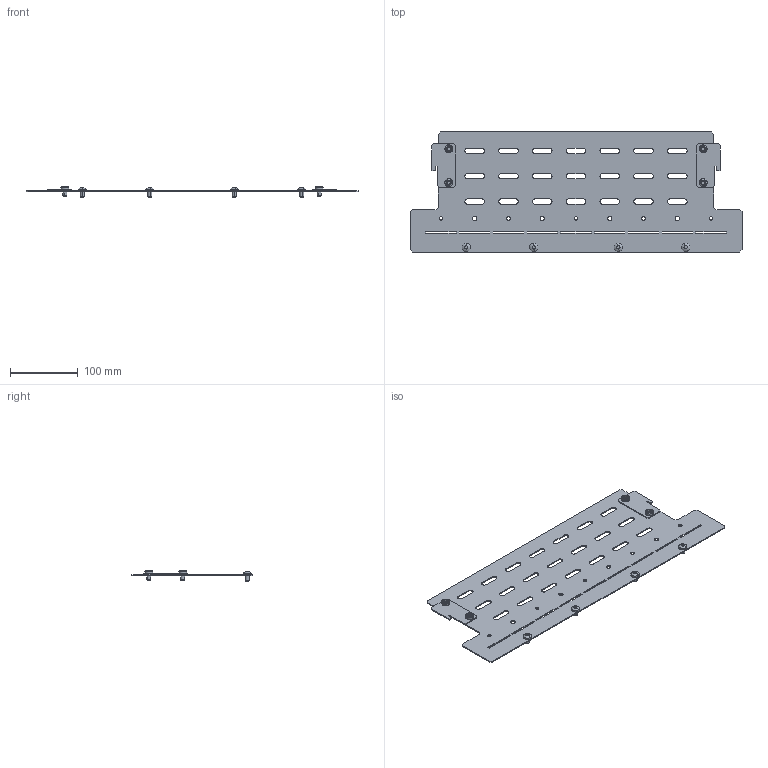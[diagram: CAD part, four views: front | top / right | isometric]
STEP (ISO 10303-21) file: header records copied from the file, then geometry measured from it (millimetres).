
FILE_DESCRIPTION (( 'STEP AP214' ), '1' );
FILE_NAME ('FO-00-SWVR-060 Ïåðåãîðîäêà ñåêöèîíèðîâàíèÿ âåðòèêàëüíàÿ êðûøè 600 ìì IP31.STEP', '2025-08-12T14:16:11', ( '' ), ( '' ), 'SwSTEP 2.0', 'SolidWorks 2023', '' );
FILE_SCHEMA (( 'AUTOMOTIVE_DESIGN' ));
Length unit declared in the file: millimetre
Products named in the file (1): FO-00-SWVR-060 Перегородка секционирования вертикальная крыши 600 мм IP31
Bounding box: 491.5 x 177.68 x 16.5 mm (x, y, z)
Volume: 118440.1 mm3; surface area: 154778.7 mm2
Topology: 1 solids, 1 shells, 452 faces, 1236 edges, 798 vertices
Faces by surface type: cylinder 236, plane 160, torus 24, cone 24, sphere 8
Entity records: 14761 total; most frequent: CARTESIAN_POINT 2755, DIRECTION 2596, ORIENTED_EDGE 2472, EDGE_CURVE 1236, AXIS2_PLACEMENT_3D 975, VERTEX_POINT 798, VECTOR 646, LINE 646
